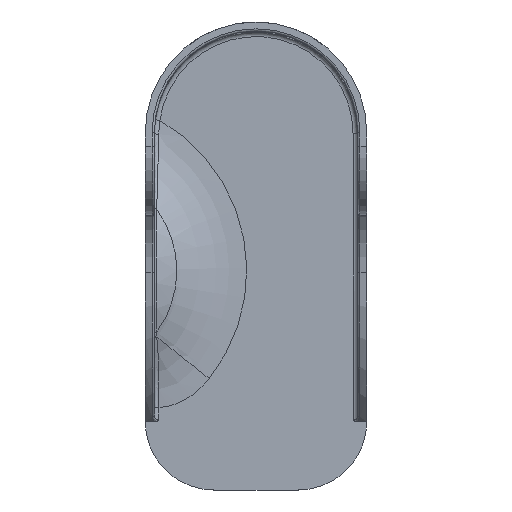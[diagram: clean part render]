
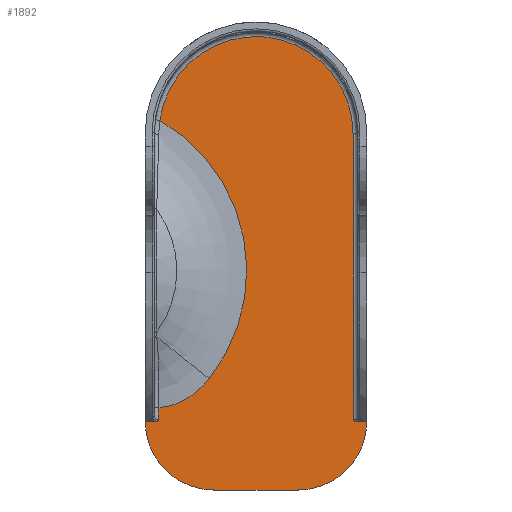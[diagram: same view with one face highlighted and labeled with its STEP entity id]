
A CAD part, top view. The second image highlights one B-rep face of the part: STEP entity #1892.
In plain terms, the highlighted planar face has unit normal (0, 0, 1).
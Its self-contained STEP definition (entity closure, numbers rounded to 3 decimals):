
#68=PLANE('',#2077);
#133=B_SPLINE_CURVE_WITH_KNOTS('',3,(#3585,#3586,#3587,#3588,#3589,#3590,
#3591,#3592,#3593,#3594),.UNSPECIFIED.,.F.,.F.,(4,2,2,2,4),(0.,0.013,
0.04,0.086,0.087),.UNSPECIFIED.);
#136=B_SPLINE_CURVE_WITH_KNOTS('',3,(#3638,#3639,#3640,#3641,#3642,#3643,
#3644,#3645),.UNSPECIFIED.,.F.,.F.,(4,2,2,4),(0.,0.,
0.039,0.081),.UNSPECIFIED.);
#200=B_SPLINE_CURVE_WITH_KNOTS('',3,(#4911,#4912,#4913,#4914,#4915),
 .UNSPECIFIED.,.F.,.F.,(4,1,4),(-16.874,-16.317,-15.575),
 .UNSPECIFIED.);
#219=LINE('',#2514,#283);
#239=LINE('',#3692,#303);
#242=LINE('',#3699,#306);
#249=LINE('',#4529,#313);
#257=LINE('',#4550,#321);
#283=VECTOR('',#2110,10.);
#303=VECTOR('',#2300,10.);
#306=VECTOR('',#2307,10.);
#313=VECTOR('',#2338,10.);
#321=VECTOR('',#2364,10.);
#476=FACE_OUTER_BOUND('',#610,.T.);
#610=EDGE_LOOP('',(#1764,#1765,#1766,#1767,#1768,#1769,#1770,#1771,#1772,
#1773,#1774,#1775));
#619=CIRCLE('',#1918,15.);
#623=CIRCLE('',#1924,15.);
#692=CIRCLE('',#2033,21.25);
#706=CIRCLE('',#2074,37.987);
#713=VERTEX_POINT('',#2499);
#715=VERTEX_POINT('',#2506);
#717=VERTEX_POINT('',#2512);
#719=VERTEX_POINT('',#2518);
#831=VERTEX_POINT('',#3583);
#832=VERTEX_POINT('',#3584);
#833=VERTEX_POINT('',#3636);
#834=VERTEX_POINT('',#3637);
#836=VERTEX_POINT('',#3697);
#898=VERTEX_POINT('',#4549);
#900=VERTEX_POINT('',#4603);
#910=VERTEX_POINT('',#4882);
#920=EDGE_CURVE('',#713,#715,#619,.T.);
#923=EDGE_CURVE('',#715,#717,#219,.T.);
#926=EDGE_CURVE('',#717,#719,#623,.T.);
#1065=EDGE_CURVE('',#831,#832,#133,.F.);
#1068=EDGE_CURVE('',#833,#834,#136,.F.);
#1071=EDGE_CURVE('',#832,#719,#239,.T.);
#1075=EDGE_CURVE('',#836,#831,#242,.T.);
#1140=EDGE_CURVE('',#713,#833,#249,.T.);
#1150=EDGE_CURVE('',#834,#898,#257,.T.);
#1155=EDGE_CURVE('',#900,#836,#692,.T.);
#1199=EDGE_CURVE('',#910,#900,#706,.T.);
#1201=EDGE_CURVE('',#898,#910,#200,.T.);
#1764=ORIENTED_EDGE('',*,*,#1140,.F.);
#1765=ORIENTED_EDGE('',*,*,#920,.T.);
#1766=ORIENTED_EDGE('',*,*,#923,.T.);
#1767=ORIENTED_EDGE('',*,*,#926,.T.);
#1768=ORIENTED_EDGE('',*,*,#1071,.F.);
#1769=ORIENTED_EDGE('',*,*,#1065,.F.);
#1770=ORIENTED_EDGE('',*,*,#1075,.F.);
#1771=ORIENTED_EDGE('',*,*,#1155,.F.);
#1772=ORIENTED_EDGE('',*,*,#1199,.F.);
#1773=ORIENTED_EDGE('',*,*,#1201,.F.);
#1774=ORIENTED_EDGE('',*,*,#1150,.F.);
#1775=ORIENTED_EDGE('',*,*,#1068,.F.);
#1892=ADVANCED_FACE('',(#476),#68,.T.);
#1918=AXIS2_PLACEMENT_3D('',#2508,#2103,#2104);
#1924=AXIS2_PLACEMENT_3D('',#2520,#2117,#2118);
#2033=AXIS2_PLACEMENT_3D('',#4605,#2373,#2374);
#2074=AXIS2_PLACEMENT_3D('',#4884,#2477,#2478);
#2077=AXIS2_PLACEMENT_3D('',#4917,#2483,#2484);
#2103=DIRECTION('center_axis',(0.,0.,1.));
#2104=DIRECTION('ref_axis',(1.,0.,0.));
#2110=DIRECTION('',(1.,0.,0.));
#2117=DIRECTION('center_axis',(0.,0.,1.));
#2118=DIRECTION('ref_axis',(1.,0.,0.));
#2300=DIRECTION('',(1.,0.,0.));
#2307=DIRECTION('',(0.,-1.,0.));
#2338=DIRECTION('',(1.,0.,0.));
#2364=DIRECTION('',(0.,1.,0.));
#2373=DIRECTION('center_axis',(0.,0.,-1.));
#2374=DIRECTION('ref_axis',(0.078,0.997,0.));
#2477=DIRECTION('center_axis',(0.,0.,1.));
#2478=DIRECTION('ref_axis',(1.,0.,0.));
#2483=DIRECTION('center_axis',(0.,0.,1.));
#2484=DIRECTION('ref_axis',(1.,0.,0.));
#2499=CARTESIAN_POINT('',(-24.25,-63.,2.));
#2506=CARTESIAN_POINT('',(-9.25,-78.,2.));
#2508=CARTESIAN_POINT('Origin',(-9.25,-63.,2.));
#2512=CARTESIAN_POINT('',(9.25,-78.,2.));
#2514=CARTESIAN_POINT('',(-9.25,-78.,2.));
#2518=CARTESIAN_POINT('',(24.25,-63.,2.));
#2520=CARTESIAN_POINT('Origin',(9.25,-63.,2.));
#3583=CARTESIAN_POINT('',(21.25,-62.749,2.));
#3584=CARTESIAN_POINT('',(21.998,-63.,2.));
#3585=CARTESIAN_POINT('Ctrl Pts',(21.998,-63.,2.));
#3586=CARTESIAN_POINT('Ctrl Pts',(21.956,-63.,2.));
#3587=CARTESIAN_POINT('Ctrl Pts',(21.914,-62.998,2.));
#3588=CARTESIAN_POINT('Ctrl Pts',(21.783,-62.984,2.));
#3589=CARTESIAN_POINT('Ctrl Pts',(21.695,-62.964,2.));
#3590=CARTESIAN_POINT('Ctrl Pts',(21.463,-62.885,2.));
#3591=CARTESIAN_POINT('Ctrl Pts',(21.344,-62.815,2.));
#3592=CARTESIAN_POINT('Ctrl Pts',(21.252,-62.751,2.));
#3593=CARTESIAN_POINT('Ctrl Pts',(21.251,-62.75,2.));
#3594=CARTESIAN_POINT('Ctrl Pts',(21.25,-62.749,2.));
#3636=CARTESIAN_POINT('',(-21.998,-63.,2.));
#3637=CARTESIAN_POINT('',(-21.25,-62.749,2.));
#3638=CARTESIAN_POINT('Ctrl Pts',(-21.25,-62.749,2.));
#3639=CARTESIAN_POINT('Ctrl Pts',(-21.251,-62.75,2.));
#3640=CARTESIAN_POINT('Ctrl Pts',(-21.252,-62.751,2.));
#3641=CARTESIAN_POINT('Ctrl Pts',(-21.36,-62.827,2.));
#3642=CARTESIAN_POINT('Ctrl Pts',(-21.474,-62.887,2.));
#3643=CARTESIAN_POINT('Ctrl Pts',(-21.726,-62.976,2.));
#3644=CARTESIAN_POINT('Ctrl Pts',(-21.861,-63.,2.));
#3645=CARTESIAN_POINT('Ctrl Pts',(-21.998,-63.,2.));
#3692=CARTESIAN_POINT('',(11.125,-63.,2.));
#3697=CARTESIAN_POINT('',(21.25,0.,2.));
#3699=CARTESIAN_POINT('',(21.25,-13.938,2.));
#4529=CARTESIAN_POINT('',(-12.125,-63.,2.));
#4549=CARTESIAN_POINT('',(-21.25,-59.981,2.));
#4550=CARTESIAN_POINT('',(-21.25,-45.438,2.));
#4603=CARTESIAN_POINT('',(-21.048,2.922,2.));
#4605=CARTESIAN_POINT('Origin',(0.,0.,2.));
#4882=CARTESIAN_POINT('',(-10.257,-53.629,2.));
#4884=CARTESIAN_POINT('Origin',(-40.,-30.,2.));
#4911=CARTESIAN_POINT('Ctrl Pts',(-21.25,-59.981,2.));
#4912=CARTESIAN_POINT('Ctrl Pts',(-19.395,-59.839,2.));
#4913=CARTESIAN_POINT('Ctrl Pts',(-15.131,-58.551,2.));
#4914=CARTESIAN_POINT('Ctrl Pts',(-11.795,-55.566,2.));
#4915=CARTESIAN_POINT('Ctrl Pts',(-10.257,-53.629,2.));
#4917=CARTESIAN_POINT('Origin',(0.,-27.875,2.));
